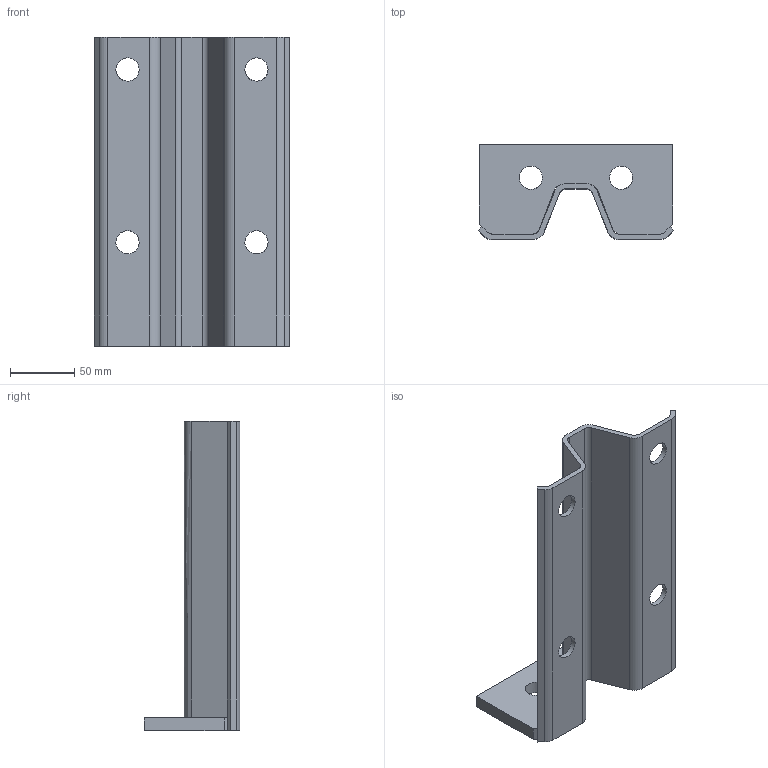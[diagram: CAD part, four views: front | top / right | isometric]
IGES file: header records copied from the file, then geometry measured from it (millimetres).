
Global section: file name: B285W70; native system: Autodesk RealDWG; preprocessor: Autodesk Translation Framework DWG producer (atf_dwg_producer); organization: unknown; date: 20230703.110928; units: centimetre
Bounding box: 151.72 x 74 x 240 mm (x, y, z)
Volume: 270962.9 mm3; surface area: 119946.3 mm2
Topology: 1 solids, 1 shells, 54 faces, 166 edges, 110 vertices
Faces by surface type: bspline 54
